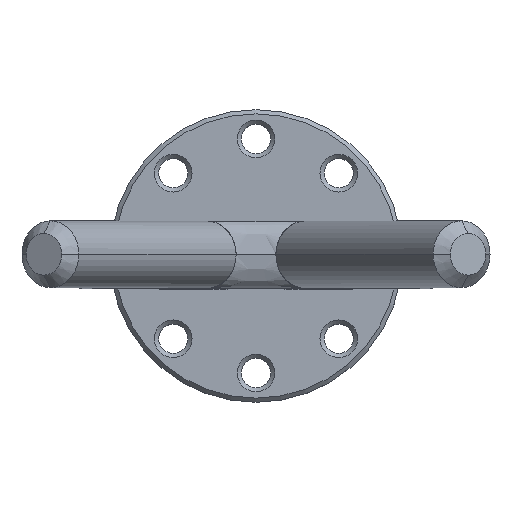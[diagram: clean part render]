
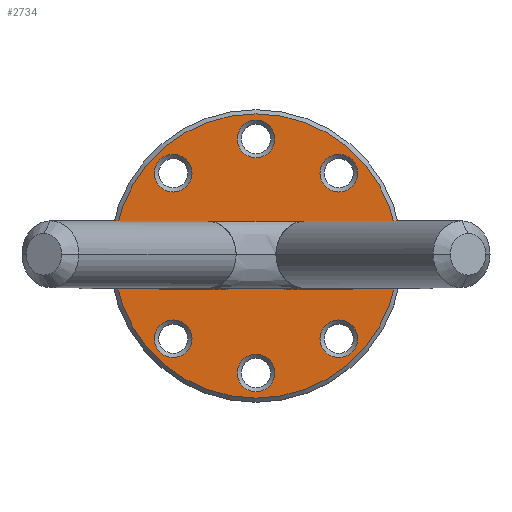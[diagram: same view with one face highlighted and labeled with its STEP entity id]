
A CAD part, top view. The second image highlights one B-rep face of the part: STEP entity #2734.
In plain terms, the highlighted planar face has unit normal (0, 0, 1).
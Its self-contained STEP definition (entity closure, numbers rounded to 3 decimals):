
#170=FACE_BOUND('',#471,.T.);
#171=FACE_BOUND('',#472,.T.);
#172=FACE_BOUND('',#473,.T.);
#173=FACE_BOUND('',#474,.T.);
#174=FACE_BOUND('',#475,.T.);
#175=FACE_BOUND('',#476,.T.);
#176=FACE_BOUND('',#477,.T.);
#177=FACE_BOUND('',#478,.T.);
#178=FACE_BOUND('',#479,.T.);
#191=PLANE('',#2955);
#282=FACE_OUTER_BOUND('',#470,.T.);
#470=EDGE_LOOP('',(#1887));
#471=EDGE_LOOP('',(#1888));
#472=EDGE_LOOP('',(#1889));
#473=EDGE_LOOP('',(#1890));
#474=EDGE_LOOP('',(#1891));
#475=EDGE_LOOP('',(#1892,#1893,#1894,#1895));
#476=EDGE_LOOP('',(#1896));
#477=EDGE_LOOP('',(#1897));
#478=EDGE_LOOP('',(#1898));
#479=EDGE_LOOP('',(#1899));
#669=LINE('',#4122,#842);
#670=LINE('',#4125,#843);
#842=VECTOR('',#3311,1.);
#843=VECTOR('',#3314,1.);
#1024=CIRCLE('',#2954,4.5);
#1025=CIRCLE('',#2956,34.);
#1026=CIRCLE('',#2957,4.5);
#1027=CIRCLE('',#2958,4.5);
#1028=CIRCLE('',#2959,4.5);
#1029=CIRCLE('',#2960,4.5);
#1030=CIRCLE('',#2961,8.);
#1031=CIRCLE('',#2962,8.);
#1032=CIRCLE('',#2963,4.5);
#1033=CIRCLE('',#2964,4.5);
#1034=CIRCLE('',#2965,4.5);
#1200=VERTEX_POINT('',#4104);
#1201=VERTEX_POINT('',#4108);
#1202=VERTEX_POINT('',#4110);
#1203=VERTEX_POINT('',#4112);
#1204=VERTEX_POINT('',#4114);
#1205=VERTEX_POINT('',#4116);
#1206=VERTEX_POINT('',#4118);
#1207=VERTEX_POINT('',#4119);
#1208=VERTEX_POINT('',#4121);
#1209=VERTEX_POINT('',#4123);
#1210=VERTEX_POINT('',#4126);
#1211=VERTEX_POINT('',#4128);
#1212=VERTEX_POINT('',#4130);
#1459=EDGE_CURVE('',#1200,#1200,#1024,.T.);
#1460=EDGE_CURVE('',#1201,#1201,#1025,.T.);
#1461=EDGE_CURVE('',#1202,#1202,#1026,.T.);
#1462=EDGE_CURVE('',#1203,#1203,#1027,.T.);
#1463=EDGE_CURVE('',#1204,#1204,#1028,.T.);
#1464=EDGE_CURVE('',#1205,#1205,#1029,.T.);
#1465=EDGE_CURVE('',#1206,#1207,#1030,.T.);
#1466=EDGE_CURVE('',#1207,#1208,#669,.T.);
#1467=EDGE_CURVE('',#1208,#1209,#1031,.T.);
#1468=EDGE_CURVE('',#1209,#1206,#670,.T.);
#1469=EDGE_CURVE('',#1210,#1210,#1032,.T.);
#1470=EDGE_CURVE('',#1211,#1211,#1033,.T.);
#1471=EDGE_CURVE('',#1212,#1212,#1034,.T.);
#1887=ORIENTED_EDGE('',*,*,#1460,.F.);
#1888=ORIENTED_EDGE('',*,*,#1461,.F.);
#1889=ORIENTED_EDGE('',*,*,#1462,.F.);
#1890=ORIENTED_EDGE('',*,*,#1463,.F.);
#1891=ORIENTED_EDGE('',*,*,#1464,.F.);
#1892=ORIENTED_EDGE('',*,*,#1465,.T.);
#1893=ORIENTED_EDGE('',*,*,#1466,.T.);
#1894=ORIENTED_EDGE('',*,*,#1467,.T.);
#1895=ORIENTED_EDGE('',*,*,#1468,.T.);
#1896=ORIENTED_EDGE('',*,*,#1469,.F.);
#1897=ORIENTED_EDGE('',*,*,#1470,.F.);
#1898=ORIENTED_EDGE('',*,*,#1471,.F.);
#1899=ORIENTED_EDGE('',*,*,#1459,.F.);
#2734=ADVANCED_FACE('',(#282,#170,#171,#172,#173,#174,#175,#176,#177,#178),
#191,.F.);
#2954=AXIS2_PLACEMENT_3D('',#4106,#3295,#3296);
#2955=AXIS2_PLACEMENT_3D('',#4107,#3297,#3298);
#2956=AXIS2_PLACEMENT_3D('',#4109,#3299,#3300);
#2957=AXIS2_PLACEMENT_3D('',#4111,#3301,#3302);
#2958=AXIS2_PLACEMENT_3D('',#4113,#3303,#3304);
#2959=AXIS2_PLACEMENT_3D('',#4115,#3305,#3306);
#2960=AXIS2_PLACEMENT_3D('',#4117,#3307,#3308);
#2961=AXIS2_PLACEMENT_3D('',#4120,#3309,#3310);
#2962=AXIS2_PLACEMENT_3D('',#4124,#3312,#3313);
#2963=AXIS2_PLACEMENT_3D('',#4127,#3315,#3316);
#2964=AXIS2_PLACEMENT_3D('',#4129,#3317,#3318);
#2965=AXIS2_PLACEMENT_3D('',#4131,#3319,#3320);
#3295=DIRECTION('center_axis',(0.,0.,1.));
#3296=DIRECTION('ref_axis',(-1.,0.,0.));
#3297=DIRECTION('center_axis',(0.,0.,-1.));
#3298=DIRECTION('ref_axis',(-1.,0.,0.));
#3299=DIRECTION('center_axis',(0.,0.,-1.));
#3300=DIRECTION('ref_axis',(-1.,0.,0.));
#3301=DIRECTION('center_axis',(0.,0.,1.));
#3302=DIRECTION('ref_axis',(-1.,0.,0.));
#3303=DIRECTION('center_axis',(0.,0.,1.));
#3304=DIRECTION('ref_axis',(-1.,0.,0.));
#3305=DIRECTION('center_axis',(0.,0.,1.));
#3306=DIRECTION('ref_axis',(1.,0.,0.));
#3307=DIRECTION('center_axis',(0.,0.,1.));
#3308=DIRECTION('ref_axis',(1.,0.,0.));
#3309=DIRECTION('center_axis',(0.,0.,-1.));
#3310=DIRECTION('ref_axis',(-1.,0.,0.));
#3311=DIRECTION('',(1.,0.,0.));
#3312=DIRECTION('center_axis',(0.,0.,-1.));
#3313=DIRECTION('ref_axis',(1.,0.,0.));
#3314=DIRECTION('',(-1.,0.,0.));
#3315=DIRECTION('center_axis',(0.,0.,1.));
#3316=DIRECTION('ref_axis',(1.,0.,0.));
#3317=DIRECTION('center_axis',(0.,0.,1.));
#3318=DIRECTION('ref_axis',(1.,0.,0.));
#3319=DIRECTION('center_axis',(0.,0.,1.));
#3320=DIRECTION('ref_axis',(-1.,0.,0.));
#4104=CARTESIAN_POINT('',(24.299,19.799,8.));
#4106=CARTESIAN_POINT('Origin',(19.799,19.799,8.));
#4107=CARTESIAN_POINT('Origin',(0.,0.,8.));
#4108=CARTESIAN_POINT('',(34.,0.,8.));
#4109=CARTESIAN_POINT('Origin',(0.,0.,8.));
#4110=CARTESIAN_POINT('',(24.299,-19.799,8.));
#4111=CARTESIAN_POINT('Origin',(19.799,-19.799,8.));
#4112=CARTESIAN_POINT('',(-15.299,19.799,8.));
#4113=CARTESIAN_POINT('Origin',(-19.799,19.799,8.));
#4114=CARTESIAN_POINT('',(23.5,0.,8.));
#4115=CARTESIAN_POINT('Origin',(28.,0.,8.));
#4116=CARTESIAN_POINT('',(-32.5,0.,8.));
#4117=CARTESIAN_POINT('Origin',(-28.,0.,8.));
#4118=CARTESIAN_POINT('',(-0.5,-2.784,8.));
#4119=CARTESIAN_POINT('',(-0.5,2.784,8.));
#4120=CARTESIAN_POINT('Origin',(-8.,0.,8.));
#4121=CARTESIAN_POINT('',(0.5,2.784,8.));
#4122=CARTESIAN_POINT('',(0.25,2.784,8.));
#4123=CARTESIAN_POINT('',(0.5,-2.784,8.));
#4124=CARTESIAN_POINT('Origin',(8.,0.,8.));
#4125=CARTESIAN_POINT('',(-0.25,-2.784,8.));
#4126=CARTESIAN_POINT('',(-4.5,28.,8.));
#4127=CARTESIAN_POINT('Origin',(0.,28.,8.));
#4128=CARTESIAN_POINT('',(-4.5,-28.,8.));
#4129=CARTESIAN_POINT('Origin',(0.,-28.,8.));
#4130=CARTESIAN_POINT('',(-15.299,-19.799,8.));
#4131=CARTESIAN_POINT('Origin',(-19.799,-19.799,8.));
